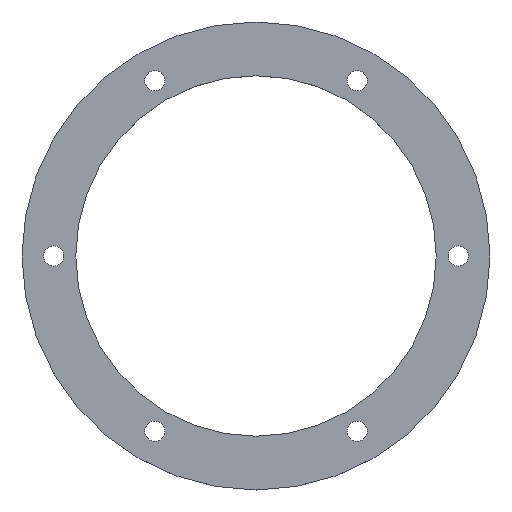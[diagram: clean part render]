
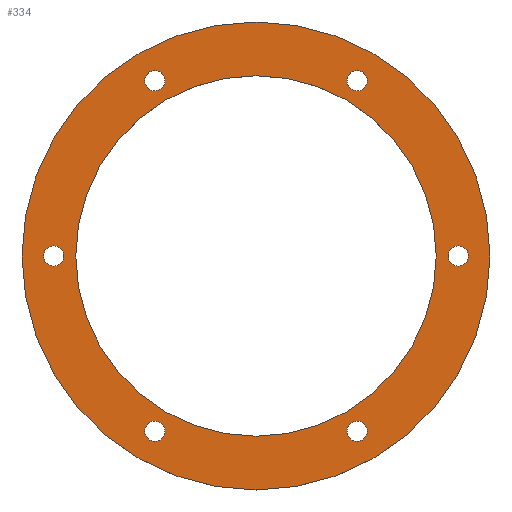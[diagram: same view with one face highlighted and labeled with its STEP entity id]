
A CAD part, top view. The second image highlights one B-rep face of the part: STEP entity #334.
In plain terms, the highlighted planar face has unit normal (0, 0, 1).
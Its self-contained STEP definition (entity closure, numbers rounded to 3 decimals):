
#24 = VERTEX_POINT('',#25);
#25 = CARTESIAN_POINT('',(-37.,0.,12.));
#32 = CYLINDRICAL_SURFACE('',#33,37.);
#33 = AXIS2_PLACEMENT_3D('',#34,#35,#36);
#34 = CARTESIAN_POINT('',(0.,0.,10.));
#35 = DIRECTION('',(0.,-0.,-1.));
#36 = DIRECTION('',(-1.,-0.,-0.));
#51 = EDGE_CURVE('',#24,#24,#52,.T.);
#52 = SURFACE_CURVE('',#53,(#58,#65),.PCURVE_S1.);
#53 = CIRCLE('',#54,37.);
#54 = AXIS2_PLACEMENT_3D('',#55,#56,#57);
#55 = CARTESIAN_POINT('',(0.,0.,12.));
#56 = DIRECTION('',(0.,0.,-1.));
#57 = DIRECTION('',(-1.,-0.,-0.));
#58 = PCURVE('',#32,#59);
#59 = DEFINITIONAL_REPRESENTATION('',(#60),#64);
#60 = LINE('',#61,#62);
#61 = CARTESIAN_POINT('',(0.,-2.));
#62 = VECTOR('',#63,1.);
#63 = DIRECTION('',(1.,0.));
#64 = ( GEOMETRIC_REPRESENTATION_CONTEXT(2) 
PARAMETRIC_REPRESENTATION_CONTEXT() REPRESENTATION_CONTEXT('2D SPACE',''
  ) );
#65 = PCURVE('',#66,#71);
#66 = PLANE('',#67);
#67 = AXIS2_PLACEMENT_3D('',#68,#69,#70);
#68 = CARTESIAN_POINT('',(0.,0.,12.));
#69 = DIRECTION('',(-0.,-0.,1.));
#70 = DIRECTION('',(1.,0.,0.));
#71 = DEFINITIONAL_REPRESENTATION('',(#72),#80);
#72 = ( BOUNDED_CURVE() B_SPLINE_CURVE(2,(#73,#74,#75,#76,#77,#78,#79),
.UNSPECIFIED.,.T.,.F.) B_SPLINE_CURVE_WITH_KNOTS((1,2,2,2,2,1),(
    -2.094,0.,2.094,4.189,6.283,
8.378),.UNSPECIFIED.) CURVE() GEOMETRIC_REPRESENTATION_ITEM() 
RATIONAL_B_SPLINE_CURVE((1.,0.5,1.,0.5,1.,0.5,1.)) REPRESENTATION_ITEM(
  '') );
#73 = CARTESIAN_POINT('',(-37.,0.));
#74 = CARTESIAN_POINT('',(-37.,64.086));
#75 = CARTESIAN_POINT('',(18.5,32.043));
#76 = CARTESIAN_POINT('',(74.,0.));
#77 = CARTESIAN_POINT('',(18.5,-32.043));
#78 = CARTESIAN_POINT('',(-37.,-64.086));
#79 = CARTESIAN_POINT('',(-37.,0.));
#80 = ( GEOMETRIC_REPRESENTATION_CONTEXT(2) 
PARAMETRIC_REPRESENTATION_CONTEXT() REPRESENTATION_CONTEXT('2D SPACE',''
  ) );
#137 = CYLINDRICAL_SURFACE('',#138,1.6);
#138 = AXIS2_PLACEMENT_3D('',#139,#140,#141);
#139 = CARTESIAN_POINT('',(16.,-27.713,9.));
#140 = DIRECTION('',(0.,-0.,-1.));
#141 = DIRECTION('',(-1.,-0.,-0.));
#168 = CYLINDRICAL_SURFACE('',#169,1.6);
#169 = AXIS2_PLACEMENT_3D('',#170,#171,#172);
#170 = CARTESIAN_POINT('',(-16.,-27.713,9.));
#171 = DIRECTION('',(0.,-0.,-1.));
#172 = DIRECTION('',(-1.,-0.,-0.));
#199 = CYLINDRICAL_SURFACE('',#200,1.6);
#200 = AXIS2_PLACEMENT_3D('',#201,#202,#203);
#201 = CARTESIAN_POINT('',(32.,0.,9.));
#202 = DIRECTION('',(0.,-0.,-1.));
#203 = DIRECTION('',(-1.,-0.,-0.));
#230 = CYLINDRICAL_SURFACE('',#231,1.6);
#231 = AXIS2_PLACEMENT_3D('',#232,#233,#234);
#232 = CARTESIAN_POINT('',(16.,27.713,9.));
#233 = DIRECTION('',(0.,-0.,-1.));
#234 = DIRECTION('',(-1.,-0.,-0.));
#261 = CYLINDRICAL_SURFACE('',#262,28.5);
#262 = AXIS2_PLACEMENT_3D('',#263,#264,#265);
#263 = CARTESIAN_POINT('',(0.,0.,9.));
#264 = DIRECTION('',(0.,-0.,-1.));
#265 = DIRECTION('',(-1.,-0.,-0.));
#292 = CYLINDRICAL_SURFACE('',#293,1.6);
#293 = AXIS2_PLACEMENT_3D('',#294,#295,#296);
#294 = CARTESIAN_POINT('',(-32.,0.,9.));
#295 = DIRECTION('',(0.,-0.,-1.));
#296 = DIRECTION('',(-1.,-0.,-0.));
#323 = CYLINDRICAL_SURFACE('',#324,1.6);
#324 = AXIS2_PLACEMENT_3D('',#325,#326,#327);
#325 = CARTESIAN_POINT('',(-16.,27.713,9.));
#326 = DIRECTION('',(0.,-0.,-1.));
#327 = DIRECTION('',(-1.,-0.,-0.));
#334 = ADVANCED_FACE('',(#335,#338,#364,#390,#416,#442,#468,#494),#66,
  .T.);
#335 = FACE_BOUND('',#336,.F.);
#336 = EDGE_LOOP('',(#337));
#337 = ORIENTED_EDGE('',*,*,#51,.T.);
#338 = FACE_BOUND('',#339,.F.);
#339 = EDGE_LOOP('',(#340));
#340 = ORIENTED_EDGE('',*,*,#341,.T.);
#341 = EDGE_CURVE('',#342,#342,#344,.T.);
#342 = VERTEX_POINT('',#343);
#343 = CARTESIAN_POINT('',(14.4,-27.713,12.));
#344 = SURFACE_CURVE('',#345,(#350,#357),.PCURVE_S1.);
#345 = CIRCLE('',#346,1.6);
#346 = AXIS2_PLACEMENT_3D('',#347,#348,#349);
#347 = CARTESIAN_POINT('',(16.,-27.713,12.));
#348 = DIRECTION('',(0.,0.,1.));
#349 = DIRECTION('',(-1.,-0.,-0.));
#350 = PCURVE('',#66,#351);
#351 = DEFINITIONAL_REPRESENTATION('',(#352),#356);
#352 = CIRCLE('',#353,1.6);
#353 = AXIS2_PLACEMENT_2D('',#354,#355);
#354 = CARTESIAN_POINT('',(16.,-27.713));
#355 = DIRECTION('',(-1.,0.));
#356 = ( GEOMETRIC_REPRESENTATION_CONTEXT(2) 
PARAMETRIC_REPRESENTATION_CONTEXT() REPRESENTATION_CONTEXT('2D SPACE',''
  ) );
#357 = PCURVE('',#137,#358);
#358 = DEFINITIONAL_REPRESENTATION('',(#359),#363);
#359 = LINE('',#360,#361);
#360 = CARTESIAN_POINT('',(6.283,-3.));
#361 = VECTOR('',#362,1.);
#362 = DIRECTION('',(-1.,0.));
#363 = ( GEOMETRIC_REPRESENTATION_CONTEXT(2) 
PARAMETRIC_REPRESENTATION_CONTEXT() REPRESENTATION_CONTEXT('2D SPACE',''
  ) );
#364 = FACE_BOUND('',#365,.F.);
#365 = EDGE_LOOP('',(#366));
#366 = ORIENTED_EDGE('',*,*,#367,.T.);
#367 = EDGE_CURVE('',#368,#368,#370,.T.);
#368 = VERTEX_POINT('',#369);
#369 = CARTESIAN_POINT('',(-17.6,-27.713,12.));
#370 = SURFACE_CURVE('',#371,(#376,#383),.PCURVE_S1.);
#371 = CIRCLE('',#372,1.6);
#372 = AXIS2_PLACEMENT_3D('',#373,#374,#375);
#373 = CARTESIAN_POINT('',(-16.,-27.713,12.));
#374 = DIRECTION('',(0.,0.,1.));
#375 = DIRECTION('',(-1.,-0.,-0.));
#376 = PCURVE('',#66,#377);
#377 = DEFINITIONAL_REPRESENTATION('',(#378),#382);
#378 = CIRCLE('',#379,1.6);
#379 = AXIS2_PLACEMENT_2D('',#380,#381);
#380 = CARTESIAN_POINT('',(-16.,-27.713));
#381 = DIRECTION('',(-1.,0.));
#382 = ( GEOMETRIC_REPRESENTATION_CONTEXT(2) 
PARAMETRIC_REPRESENTATION_CONTEXT() REPRESENTATION_CONTEXT('2D SPACE',''
  ) );
#383 = PCURVE('',#168,#384);
#384 = DEFINITIONAL_REPRESENTATION('',(#385),#389);
#385 = LINE('',#386,#387);
#386 = CARTESIAN_POINT('',(6.283,-3.));
#387 = VECTOR('',#388,1.);
#388 = DIRECTION('',(-1.,0.));
#389 = ( GEOMETRIC_REPRESENTATION_CONTEXT(2) 
PARAMETRIC_REPRESENTATION_CONTEXT() REPRESENTATION_CONTEXT('2D SPACE',''
  ) );
#390 = FACE_BOUND('',#391,.F.);
#391 = EDGE_LOOP('',(#392));
#392 = ORIENTED_EDGE('',*,*,#393,.T.);
#393 = EDGE_CURVE('',#394,#394,#396,.T.);
#394 = VERTEX_POINT('',#395);
#395 = CARTESIAN_POINT('',(30.4,0.,12.));
#396 = SURFACE_CURVE('',#397,(#402,#409),.PCURVE_S1.);
#397 = CIRCLE('',#398,1.6);
#398 = AXIS2_PLACEMENT_3D('',#399,#400,#401);
#399 = CARTESIAN_POINT('',(32.,0.,12.));
#400 = DIRECTION('',(0.,0.,1.));
#401 = DIRECTION('',(-1.,-0.,-0.));
#402 = PCURVE('',#66,#403);
#403 = DEFINITIONAL_REPRESENTATION('',(#404),#408);
#404 = CIRCLE('',#405,1.6);
#405 = AXIS2_PLACEMENT_2D('',#406,#407);
#406 = CARTESIAN_POINT('',(32.,0.));
#407 = DIRECTION('',(-1.,0.));
#408 = ( GEOMETRIC_REPRESENTATION_CONTEXT(2) 
PARAMETRIC_REPRESENTATION_CONTEXT() REPRESENTATION_CONTEXT('2D SPACE',''
  ) );
#409 = PCURVE('',#199,#410);
#410 = DEFINITIONAL_REPRESENTATION('',(#411),#415);
#411 = LINE('',#412,#413);
#412 = CARTESIAN_POINT('',(6.283,-3.));
#413 = VECTOR('',#414,1.);
#414 = DIRECTION('',(-1.,0.));
#415 = ( GEOMETRIC_REPRESENTATION_CONTEXT(2) 
PARAMETRIC_REPRESENTATION_CONTEXT() REPRESENTATION_CONTEXT('2D SPACE',''
  ) );
#416 = FACE_BOUND('',#417,.F.);
#417 = EDGE_LOOP('',(#418));
#418 = ORIENTED_EDGE('',*,*,#419,.T.);
#419 = EDGE_CURVE('',#420,#420,#422,.T.);
#420 = VERTEX_POINT('',#421);
#421 = CARTESIAN_POINT('',(14.4,27.713,12.));
#422 = SURFACE_CURVE('',#423,(#428,#435),.PCURVE_S1.);
#423 = CIRCLE('',#424,1.6);
#424 = AXIS2_PLACEMENT_3D('',#425,#426,#427);
#425 = CARTESIAN_POINT('',(16.,27.713,12.));
#426 = DIRECTION('',(0.,0.,1.));
#427 = DIRECTION('',(-1.,-0.,-0.));
#428 = PCURVE('',#66,#429);
#429 = DEFINITIONAL_REPRESENTATION('',(#430),#434);
#430 = CIRCLE('',#431,1.6);
#431 = AXIS2_PLACEMENT_2D('',#432,#433);
#432 = CARTESIAN_POINT('',(16.,27.713));
#433 = DIRECTION('',(-1.,0.));
#434 = ( GEOMETRIC_REPRESENTATION_CONTEXT(2) 
PARAMETRIC_REPRESENTATION_CONTEXT() REPRESENTATION_CONTEXT('2D SPACE',''
  ) );
#435 = PCURVE('',#230,#436);
#436 = DEFINITIONAL_REPRESENTATION('',(#437),#441);
#437 = LINE('',#438,#439);
#438 = CARTESIAN_POINT('',(6.283,-3.));
#439 = VECTOR('',#440,1.);
#440 = DIRECTION('',(-1.,0.));
#441 = ( GEOMETRIC_REPRESENTATION_CONTEXT(2) 
PARAMETRIC_REPRESENTATION_CONTEXT() REPRESENTATION_CONTEXT('2D SPACE',''
  ) );
#442 = FACE_BOUND('',#443,.F.);
#443 = EDGE_LOOP('',(#444));
#444 = ORIENTED_EDGE('',*,*,#445,.T.);
#445 = EDGE_CURVE('',#446,#446,#448,.T.);
#446 = VERTEX_POINT('',#447);
#447 = CARTESIAN_POINT('',(-28.5,0.,12.));
#448 = SURFACE_CURVE('',#449,(#454,#461),.PCURVE_S1.);
#449 = CIRCLE('',#450,28.5);
#450 = AXIS2_PLACEMENT_3D('',#451,#452,#453);
#451 = CARTESIAN_POINT('',(0.,0.,12.));
#452 = DIRECTION('',(0.,0.,1.));
#453 = DIRECTION('',(-1.,-0.,-0.));
#454 = PCURVE('',#66,#455);
#455 = DEFINITIONAL_REPRESENTATION('',(#456),#460);
#456 = CIRCLE('',#457,28.5);
#457 = AXIS2_PLACEMENT_2D('',#458,#459);
#458 = CARTESIAN_POINT('',(0.,0.));
#459 = DIRECTION('',(-1.,0.));
#460 = ( GEOMETRIC_REPRESENTATION_CONTEXT(2) 
PARAMETRIC_REPRESENTATION_CONTEXT() REPRESENTATION_CONTEXT('2D SPACE',''
  ) );
#461 = PCURVE('',#261,#462);
#462 = DEFINITIONAL_REPRESENTATION('',(#463),#467);
#463 = LINE('',#464,#465);
#464 = CARTESIAN_POINT('',(6.283,-3.));
#465 = VECTOR('',#466,1.);
#466 = DIRECTION('',(-1.,0.));
#467 = ( GEOMETRIC_REPRESENTATION_CONTEXT(2) 
PARAMETRIC_REPRESENTATION_CONTEXT() REPRESENTATION_CONTEXT('2D SPACE',''
  ) );
#468 = FACE_BOUND('',#469,.F.);
#469 = EDGE_LOOP('',(#470));
#470 = ORIENTED_EDGE('',*,*,#471,.T.);
#471 = EDGE_CURVE('',#472,#472,#474,.T.);
#472 = VERTEX_POINT('',#473);
#473 = CARTESIAN_POINT('',(-33.6,0.,12.));
#474 = SURFACE_CURVE('',#475,(#480,#487),.PCURVE_S1.);
#475 = CIRCLE('',#476,1.6);
#476 = AXIS2_PLACEMENT_3D('',#477,#478,#479);
#477 = CARTESIAN_POINT('',(-32.,0.,12.));
#478 = DIRECTION('',(0.,0.,1.));
#479 = DIRECTION('',(-1.,-0.,-0.));
#480 = PCURVE('',#66,#481);
#481 = DEFINITIONAL_REPRESENTATION('',(#482),#486);
#482 = CIRCLE('',#483,1.6);
#483 = AXIS2_PLACEMENT_2D('',#484,#485);
#484 = CARTESIAN_POINT('',(-32.,0.));
#485 = DIRECTION('',(-1.,0.));
#486 = ( GEOMETRIC_REPRESENTATION_CONTEXT(2) 
PARAMETRIC_REPRESENTATION_CONTEXT() REPRESENTATION_CONTEXT('2D SPACE',''
  ) );
#487 = PCURVE('',#292,#488);
#488 = DEFINITIONAL_REPRESENTATION('',(#489),#493);
#489 = LINE('',#490,#491);
#490 = CARTESIAN_POINT('',(6.283,-3.));
#491 = VECTOR('',#492,1.);
#492 = DIRECTION('',(-1.,0.));
#493 = ( GEOMETRIC_REPRESENTATION_CONTEXT(2) 
PARAMETRIC_REPRESENTATION_CONTEXT() REPRESENTATION_CONTEXT('2D SPACE',''
  ) );
#494 = FACE_BOUND('',#495,.F.);
#495 = EDGE_LOOP('',(#496));
#496 = ORIENTED_EDGE('',*,*,#497,.T.);
#497 = EDGE_CURVE('',#498,#498,#500,.T.);
#498 = VERTEX_POINT('',#499);
#499 = CARTESIAN_POINT('',(-17.6,27.713,12.));
#500 = SURFACE_CURVE('',#501,(#506,#513),.PCURVE_S1.);
#501 = CIRCLE('',#502,1.6);
#502 = AXIS2_PLACEMENT_3D('',#503,#504,#505);
#503 = CARTESIAN_POINT('',(-16.,27.713,12.));
#504 = DIRECTION('',(0.,0.,1.));
#505 = DIRECTION('',(-1.,-0.,-0.));
#506 = PCURVE('',#66,#507);
#507 = DEFINITIONAL_REPRESENTATION('',(#508),#512);
#508 = CIRCLE('',#509,1.6);
#509 = AXIS2_PLACEMENT_2D('',#510,#511);
#510 = CARTESIAN_POINT('',(-16.,27.713));
#511 = DIRECTION('',(-1.,0.));
#512 = ( GEOMETRIC_REPRESENTATION_CONTEXT(2) 
PARAMETRIC_REPRESENTATION_CONTEXT() REPRESENTATION_CONTEXT('2D SPACE',''
  ) );
#513 = PCURVE('',#323,#514);
#514 = DEFINITIONAL_REPRESENTATION('',(#515),#519);
#515 = LINE('',#516,#517);
#516 = CARTESIAN_POINT('',(6.283,-3.));
#517 = VECTOR('',#518,1.);
#518 = DIRECTION('',(-1.,0.));
#519 = ( GEOMETRIC_REPRESENTATION_CONTEXT(2) 
PARAMETRIC_REPRESENTATION_CONTEXT() REPRESENTATION_CONTEXT('2D SPACE',''
  ) );
